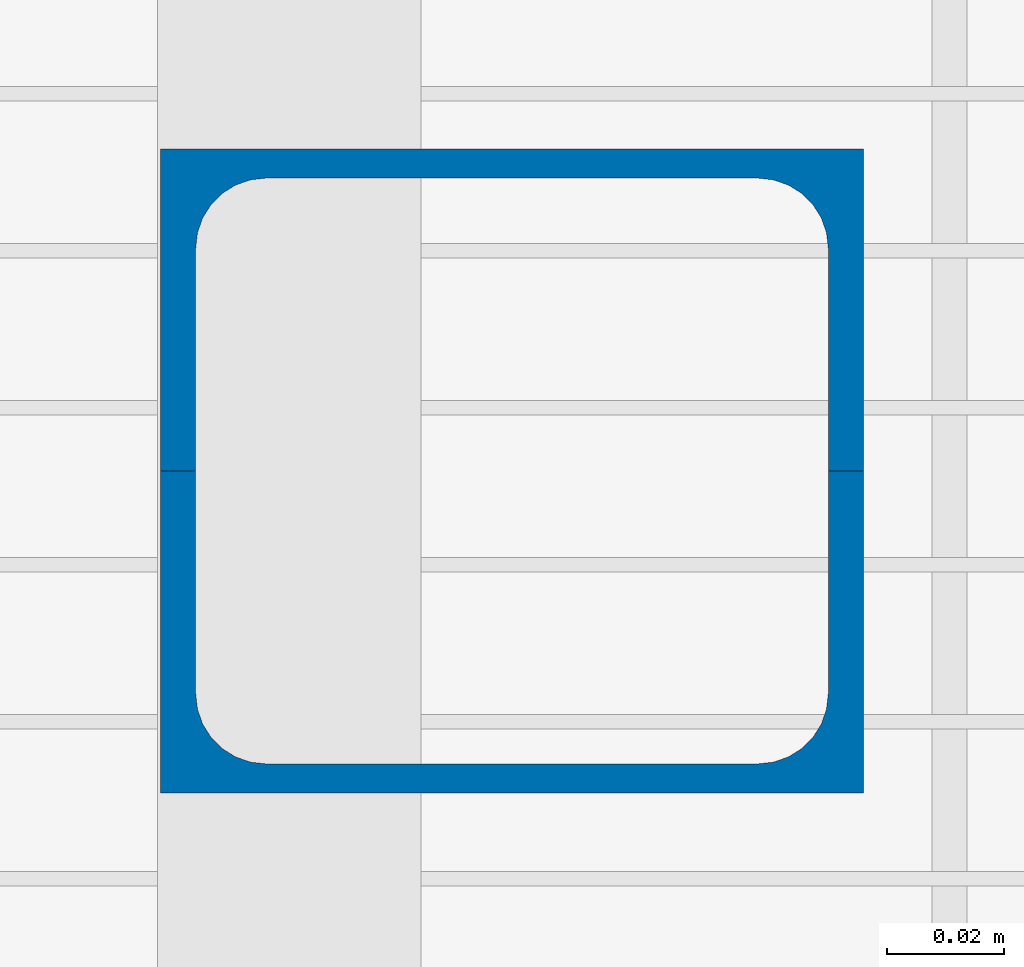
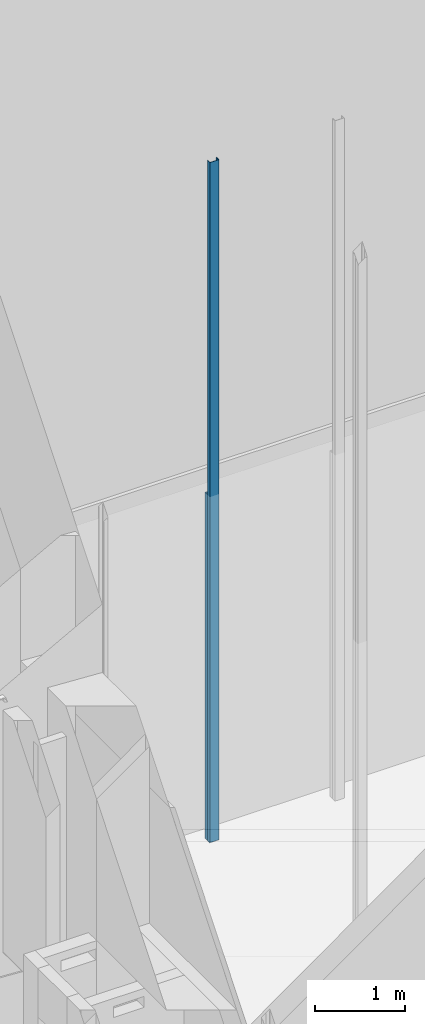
# One storey, part 7 of 75: 2 columns.
"""IFC2X3 building model written with IfcOpenShell, lengths in metres."""

from ifc_helpers import new_model, entity, si_unit, converted_unit, derived_unit, direction, frame, frame_2d, origin, place, context, subcontext, project, spatial, polyline, circle_curve, parameter, trimmed, segment, composite_curve, outline, extrude, source, transform, mapped, material, type_object, type_shapes, element, save


model = new_model("IFC2X3")

# Units and contexts
model_context = context("Model", 3, precision=1e-05, world=origin(), true_north=direction((6.12303176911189e-17, 1.0)))
body_context = subcontext(model_context, "Body", "Model", "MODEL_VIEW")
ifc_project = project(units=[si_unit("LENGTHUNIT", "METRE"), si_unit("AREAUNIT", "SQUARE_METRE"), si_unit("VOLUMEUNIT", "CUBIC_METRE"), converted_unit("PLANEANGLEUNIT", "DEGREE", entity("IfcRatioMeasure", 0.0174532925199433), si_unit("PLANEANGLEUNIT", "RADIAN"), dimensions=[0, 0, 0, 0, 0, 0, 0]), si_unit("MASSUNIT", "GRAM", prefix="KILO"), derived_unit("MASSDENSITYUNIT", [(si_unit("MASSUNIT", "GRAM", prefix="KILO"), 1), (si_unit("LENGTHUNIT", "METRE"), -3)]), derived_unit("MOMENTOFINERTIAUNIT", [(si_unit("LENGTHUNIT", "METRE"), 4)]), si_unit("TIMEUNIT", "SECOND"), si_unit("FREQUENCYUNIT", "HERTZ"), si_unit("THERMODYNAMICTEMPERATUREUNIT", "DEGREE_CELSIUS"), derived_unit("THERMALTRANSMITTANCEUNIT", [(si_unit("MASSUNIT", "GRAM", prefix="KILO"), 1), (si_unit("THERMODYNAMICTEMPERATUREUNIT", "KELVIN"), -1), (si_unit("TIMEUNIT", "SECOND"), -3)]), derived_unit("VOLUMETRICFLOWRATEUNIT", [(si_unit("LENGTHUNIT", "METRE"), 3), (si_unit("TIMEUNIT", "SECOND"), -1)]), si_unit("ELECTRICCURRENTUNIT", "AMPERE"), si_unit("ELECTRICVOLTAGEUNIT", "VOLT"), si_unit("POWERUNIT", "WATT"), si_unit("FORCEUNIT", "NEWTON", prefix="KILO"), si_unit("ILLUMINANCEUNIT", "LUX"), si_unit("LUMINOUSFLUXUNIT", "LUMEN"), si_unit("LUMINOUSINTENSITYUNIT", "CANDELA"), derived_unit("USERDEFINED", [(si_unit("MASSUNIT", "GRAM", prefix="KILO"), -1), (si_unit("LENGTHUNIT", "METRE"), -2), (si_unit("TIMEUNIT", "SECOND"), 3), (si_unit("LUMINOUSFLUXUNIT", "LUMEN"), 1)]), derived_unit("LINEARVELOCITYUNIT", [(si_unit("LENGTHUNIT", "METRE"), 1), (si_unit("TIMEUNIT", "SECOND"), -1)]), si_unit("PRESSUREUNIT", "PASCAL"), derived_unit("USERDEFINED", [(si_unit("LENGTHUNIT", "METRE"), -2), (si_unit("MASSUNIT", "GRAM", prefix="KILO"), 1), (si_unit("TIMEUNIT", "SECOND"), -2)]), derived_unit("LINEARFORCEUNIT", [(si_unit("MASSUNIT", "GRAM", prefix="KILO"), 1), (si_unit("LENGTHUNIT", "METRE"), 1), (si_unit("TIMEUNIT", "SECOND"), -2), (si_unit("LENGTHUNIT", "METRE"), -1)]), derived_unit("PLANARFORCEUNIT", [(si_unit("MASSUNIT", "GRAM", prefix="KILO"), 1), (si_unit("LENGTHUNIT", "METRE"), 1), (si_unit("TIMEUNIT", "SECOND"), -2), (si_unit("LENGTHUNIT", "METRE"), -2)])], contexts=[model_context])

# Site, building, storey
site_placement = place(None, origin())
site = spatial("IfcSite", under=ifc_project, at=site_placement, Name="Superficie", CompositionType="ELEMENT")
building_placement = place(site_placement, origin())
building = spatial("IfcBuilding", under=site, at=building_placement, Name="Telegestiones", CompositionType="ELEMENT")
storey_placement = place(building_placement, origin())
storey = spatial("IfcBuildingStorey", under=building, at=storey_placement, Name="Nivel 0_NPT", CompositionType="ELEMENT", Elevation=0.0)

# Columns
ifc_material = material(Name="Metal - Acero - 345 MPa")
column_type_1 = type_object("IfcColumnType", Name="UPE - Canales de ala paralela - Pilar:UPE 120", PredefinedType="COLUMN", material=ifc_material)
shared_shape_1 = source(origin(), body_context, "Body", "SweptSolid", [
    extrude(outline(composite_curve([segment(polyline([(-0.0599999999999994, -0.0264), (0.0600000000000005, -0.0264)]), True, "CONTINUOUS"), segment(polyline([(0.0600000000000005, -0.0264), (0.0600000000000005, 0.0286)]), True, "CONTINUOUS"), segment(polyline([(0.0600000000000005, 0.0286), (0.0539999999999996, 0.0286)]), True, "CONTINUOUS"), segment(polyline([(0.0539999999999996, 0.0286), (0.0539999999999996, -0.00939999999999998)]), True, "CONTINUOUS"), segment(trimmed(circle_curve(frame_2d((0.0419999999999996, -0.0094), x_axis=(1.0, 0.0)), 0.012), [parameter(270.0)], [parameter(0.0)], True, "PARAMETER"), False, "CONTINUOUS"), segment(polyline([(0.0419999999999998, -0.0214), (-0.0420000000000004, -0.0214)]), True, "CONTINUOUS"), segment(trimmed(circle_curve(frame_2d((-0.0420000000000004, -0.00940000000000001), x_axis=(0.0, -1.0)), 0.012), [parameter(270.0)], [parameter(0.0)], True, "PARAMETER"), False, "CONTINUOUS"), segment(polyline([(-0.0540000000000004, -0.0094), (-0.0540000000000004, 0.0286)]), True, "CONTINUOUS"), segment(polyline([(-0.0540000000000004, 0.0286), (-0.0599999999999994, 0.0286)]), True, "CONTINUOUS"), segment(polyline([(-0.0599999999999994, 0.0286), (-0.0599999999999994, -0.0264)]), True, "CONTINUOUS")], self_intersect=False)), frame((0.00660000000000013, 0.0, 0.0), z_axis=(0.0, 0.0, 1.0), x_axis=(0.0, -1.0, 0.0)), (0.0, 0.0, 1.0), 9.27),
])
type_shapes(column_type_1, [shared_shape_1])
column_1_placement = place(storey_placement, frame((9.6448126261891, 13.4444072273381, 0.0), z_axis=(0.0, 0.0, 1.0), x_axis=(0.0, 1.0, 0.0)))
element("IfcColumn", 1, at=column_1_placement, inside=storey, type_object=column_type_1, Name="UPE - Canales de ala paralela - Pilar:UPE 120", ObjectType="UPE - Canales de ala paralela - Pilar:UPE 120", context=body_context, shape_type="MappedRepresentation", body=[
    mapped(shared_shape_1, transform((0.0, 0.0, 0.0), scale=1.0)),
])
column_type_2 = type_object("IfcColumnType", Name="UPE - Canales de ala paralela - Pilar:UPE 120", PredefinedType="COLUMN", material=ifc_material)
shared_shape_2 = source(origin(), body_context, "Body", "SweptSolid", [
    extrude(outline(composite_curve([segment(polyline([(-0.0600000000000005, -0.0264), (0.0599999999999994, -0.0264)]), True, "CONTINUOUS"), segment(polyline([(0.0599999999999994, -0.0264), (0.0599999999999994, 0.0286)]), True, "CONTINUOUS"), segment(polyline([(0.0599999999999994, 0.0286), (0.0540000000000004, 0.0286)]), True, "CONTINUOUS"), segment(polyline([(0.0540000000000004, 0.0286), (0.0540000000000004, -0.00939999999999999)]), True, "CONTINUOUS"), segment(trimmed(circle_curve(frame_2d((0.0420000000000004, -0.00939999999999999), x_axis=(1.0, 0.0)), 0.012), [parameter(270.0)], [parameter(0.0)], True, "PARAMETER"), False, "CONTINUOUS"), segment(polyline([(0.0420000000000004, -0.0214), (-0.0419999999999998, -0.0214)]), True, "CONTINUOUS"), segment(trimmed(circle_curve(frame_2d((-0.0419999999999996, -0.00939999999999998), x_axis=(0.0, -1.0)), 0.012), [parameter(270.0)], [parameter(0.0)], True, "PARAMETER"), False, "CONTINUOUS"), segment(polyline([(-0.0539999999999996, -0.00939999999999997), (-0.0539999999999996, 0.0286)]), True, "CONTINUOUS"), segment(polyline([(-0.0539999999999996, 0.0286), (-0.0600000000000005, 0.0286)]), True, "CONTINUOUS"), segment(polyline([(-0.0600000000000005, 0.0286), (-0.0600000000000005, -0.0264)]), True, "CONTINUOUS")], self_intersect=False)), frame((0.00660000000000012, 0.0, 0.0), z_axis=(0.0, 0.0, 1.0), x_axis=(0.0, -1.0, 0.0)), (0.0, 0.0, 1.0), 4.71),
])
type_shapes(column_type_2, [shared_shape_2])
column_2_placement = place(storey_placement, frame((9.6448126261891, 13.5148072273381, 0.0), z_axis=(0.0, 0.0, 1.0), x_axis=(0.0, -1.0, 0.0)))
element("IfcColumn", 2, at=column_2_placement, inside=storey, type_object=column_type_2, Name="UPE - Canales de ala paralela - Pilar:UPE 120", ObjectType="UPE - Canales de ala paralela - Pilar:UPE 120", context=body_context, shape_type="MappedRepresentation", body=[
    mapped(shared_shape_2, transform((0.0, 0.0, 0.0), scale=1.0)),
])

save(model, "model.ifc")
